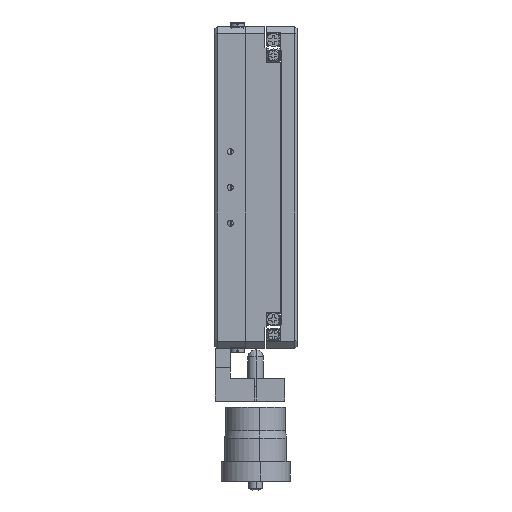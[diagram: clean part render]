
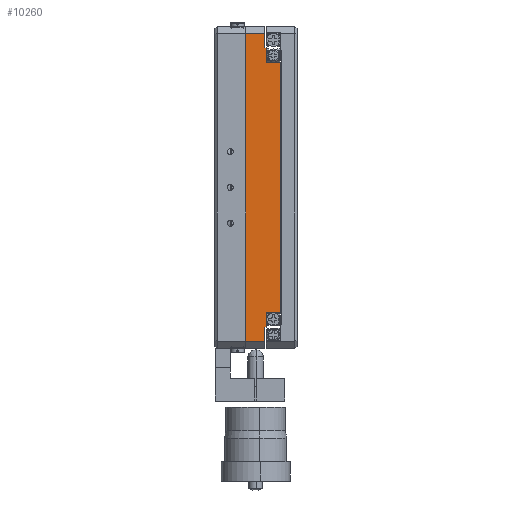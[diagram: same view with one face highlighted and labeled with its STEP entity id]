
A CAD part, left-side view. The second image highlights one B-rep face of the part: STEP entity #10260.
In plain terms, the highlighted planar face has unit normal (-1, 0, 0).
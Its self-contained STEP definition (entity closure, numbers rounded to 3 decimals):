
#102 = VECTOR ( 'NONE', #16173, 1000. ) ;
#400 = VERTEX_POINT ( 'NONE', #2878 ) ;
#915 = EDGE_CURVE ( 'NONE', #15480, #24656, #23182, .T. ) ;
#1061 = CARTESIAN_POINT ( 'NONE',  ( -70.913, -15.478, 82.5 ) ) ;
#1239 = DIRECTION ( 'NONE',  ( 0., -1., 0. ) ) ;
#1457 = EDGE_CURVE ( 'NONE', #24656, #20769, #4999, .T. ) ;
#1490 = CARTESIAN_POINT ( 'NONE',  ( -70.913, -14.978, 199.5 ) ) ;
#2160 = CARTESIAN_POINT ( 'NONE',  ( -70.913, -14.978, 67.5 ) ) ;
#2545 = ORIENTED_EDGE ( 'NONE', *, *, #18322, .T. ) ;
#2592 = LINE ( 'NONE', #3372, #24760 ) ;
#2670 = LINE ( 'NONE', #2160, #102 ) ;
#2757 = ORIENTED_EDGE ( 'NONE', *, *, #915, .F. ) ;
#2802 = EDGE_CURVE ( 'NONE', #16371, #15480, #15123, .T. ) ;
#2878 = CARTESIAN_POINT ( 'NONE',  ( -70.913, -15.478, 76.5 ) ) ;
#3372 = CARTESIAN_POINT ( 'NONE',  ( -70.913, -15.478, 67.5 ) ) ;
#3573 = AXIS2_PLACEMENT_3D ( 'NONE', #4577, #10489, #24323 ) ;
#3952 = ORIENTED_EDGE ( 'NONE', *, *, #6088, .F. ) ;
#4223 = VECTOR ( 'NONE', #22894, 1000. ) ;
#4577 = CARTESIAN_POINT ( 'NONE',  ( -70.913, -21.478, 67.5 ) ) ;
#4999 = LINE ( 'NONE', #11154, #14007 ) ;
#6088 = EDGE_CURVE ( 'NONE', #20769, #19268, #2670, .T. ) ;
#6809 = LINE ( 'NONE', #22990, #11437 ) ;
#7123 = ORIENTED_EDGE ( 'NONE', *, *, #14659, .T. ) ;
#7298 = DIRECTION ( 'NONE',  ( 0., 0., 1. ) ) ;
#7610 = CARTESIAN_POINT ( 'NONE',  ( -70.913, -14.978, 76.5 ) ) ;
#8128 = VECTOR ( 'NONE', #21519, 1000. ) ;
#8447 = VERTEX_POINT ( 'NONE', #20452 ) ;
#8460 = DIRECTION ( 'NONE',  ( 0., 1., 0. ) ) ;
#8571 = VECTOR ( 'NONE', #17205, 1000. ) ;
#8831 = CARTESIAN_POINT ( 'NONE',  ( -70.913, -21.478, 135. ) ) ;
#8998 = EDGE_LOOP ( 'NONE', ( #25912, #2757, #17186, #13148, #12237, #11849, #7123, #14756, #12113, #17268, #2545, #3952 ) ) ;
#9663 = DIRECTION ( 'NONE',  ( 0., -1., 0. ) ) ;
#10260 = ADVANCED_FACE ( 'NONE', ( #11651 ), #18326, .F. ) ;
#10489 = DIRECTION ( 'NONE',  ( 1., 0., 0. ) ) ;
#10669 = CARTESIAN_POINT ( 'NONE',  ( -70.913, -15.478, 193.5 ) ) ;
#10734 = VERTEX_POINT ( 'NONE', #23814 ) ;
#11154 = CARTESIAN_POINT ( 'NONE',  ( -70.913, -21.478, 199.5 ) ) ;
#11437 = VECTOR ( 'NONE', #9663, 1000. ) ;
#11457 = CARTESIAN_POINT ( 'NONE',  ( -70.913, -14.978, 67.5 ) ) ;
#11648 = LINE ( 'NONE', #11457, #8571 ) ;
#11651 = FACE_OUTER_BOUND ( 'NONE', #8998, .T. ) ;
#11849 = ORIENTED_EDGE ( 'NONE', *, *, #25189, .F. ) ;
#11918 = DIRECTION ( 'NONE',  ( 0., -1., 0. ) ) ;
#12113 = ORIENTED_EDGE ( 'NONE', *, *, #24263, .F. ) ;
#12237 = ORIENTED_EDGE ( 'NONE', *, *, #20870, .T. ) ;
#12357 = VERTEX_POINT ( 'NONE', #15466 ) ;
#12708 = CARTESIAN_POINT ( 'NONE',  ( -70.913, -15.478, 193.5 ) ) ;
#12789 = EDGE_CURVE ( 'NONE', #23562, #10734, #2592, .T. ) ;
#13148 = ORIENTED_EDGE ( 'NONE', *, *, #17325, .F. ) ;
#13445 = VECTOR ( 'NONE', #7298, 1000. ) ;
#14007 = VECTOR ( 'NONE', #1239, 1000. ) ;
#14439 = VERTEX_POINT ( 'NONE', #16871 ) ;
#14512 = LINE ( 'NONE', #8831, #4223 ) ;
#14659 = EDGE_CURVE ( 'NONE', #8447, #19467, #20833, .T. ) ;
#14756 = ORIENTED_EDGE ( 'NONE', *, *, #19372, .F. ) ;
#14861 = CARTESIAN_POINT ( 'NONE',  ( -70.913, -6.978, 199.5 ) ) ;
#15123 = LINE ( 'NONE', #16619, #23945 ) ;
#15466 = CARTESIAN_POINT ( 'NONE',  ( -70.913, -14.978, 76.5 ) ) ;
#15480 = VERTEX_POINT ( 'NONE', #16530 ) ;
#15638 = LINE ( 'NONE', #12708, #25067 ) ;
#16173 = DIRECTION ( 'NONE',  ( 0., 0., -1. ) ) ;
#16371 = VERTEX_POINT ( 'NONE', #24400 ) ;
#16530 = CARTESIAN_POINT ( 'NONE',  ( -70.913, -6.978, 70.5 ) ) ;
#16619 = CARTESIAN_POINT ( 'NONE',  ( -70.913, -21.478, 70.5 ) ) ;
#16827 = LINE ( 'NONE', #25869, #8128 ) ;
#16871 = CARTESIAN_POINT ( 'NONE',  ( -70.913, -21.478, 187.5 ) ) ;
#17152 = CARTESIAN_POINT ( 'NONE',  ( -70.913, -21.478, 82.5 ) ) ;
#17186 = ORIENTED_EDGE ( 'NONE', *, *, #2802, .F. ) ;
#17205 = DIRECTION ( 'NONE',  ( 0., 0., -1. ) ) ;
#17268 = ORIENTED_EDGE ( 'NONE', *, *, #12789, .F. ) ;
#17325 = EDGE_CURVE ( 'NONE', #12357, #16371, #11648, .T. ) ;
#18322 = EDGE_CURVE ( 'NONE', #23562, #19268, #15638, .T. ) ;
#18326 = PLANE ( 'NONE',  #3573 ) ;
#19239 = CARTESIAN_POINT ( 'NONE',  ( -70.913, -6.978, 67.5 ) ) ;
#19268 = VERTEX_POINT ( 'NONE', #22358 ) ;
#19372 = EDGE_CURVE ( 'NONE', #14439, #19467, #14512, .T. ) ;
#19467 = VERTEX_POINT ( 'NONE', #17152 ) ;
#20346 = VECTOR ( 'NONE', #11918, 1000. ) ;
#20452 = CARTESIAN_POINT ( 'NONE',  ( -70.913, -15.478, 82.5 ) ) ;
#20769 = VERTEX_POINT ( 'NONE', #1490 ) ;
#20833 = LINE ( 'NONE', #1061, #21131 ) ;
#20841 = DIRECTION ( 'NONE',  ( 0., 1., 0. ) ) ;
#20870 = EDGE_CURVE ( 'NONE', #12357, #400, #23206, .T. ) ;
#21131 = VECTOR ( 'NONE', #23090, 1000. ) ;
#21325 = DIRECTION ( 'NONE',  ( 0., 0., -1. ) ) ;
#21519 = DIRECTION ( 'NONE',  ( 0., 0., -1. ) ) ;
#22358 = CARTESIAN_POINT ( 'NONE',  ( -70.913, -14.978, 193.5 ) ) ;
#22894 = DIRECTION ( 'NONE',  ( 0., 0., -1. ) ) ;
#22990 = CARTESIAN_POINT ( 'NONE',  ( -70.913, -21.478, 187.5 ) ) ;
#23090 = DIRECTION ( 'NONE',  ( 0., -1., 0. ) ) ;
#23182 = LINE ( 'NONE', #19239, #13445 ) ;
#23206 = LINE ( 'NONE', #7610, #20346 ) ;
#23562 = VERTEX_POINT ( 'NONE', #10669 ) ;
#23814 = CARTESIAN_POINT ( 'NONE',  ( -70.913, -15.478, 187.5 ) ) ;
#23945 = VECTOR ( 'NONE', #8460, 1000. ) ;
#24263 = EDGE_CURVE ( 'NONE', #10734, #14439, #6809, .T. ) ;
#24323 = DIRECTION ( 'NONE',  ( 0., 0., 1. ) ) ;
#24400 = CARTESIAN_POINT ( 'NONE',  ( -70.913, -14.978, 70.5 ) ) ;
#24656 = VERTEX_POINT ( 'NONE', #14861 ) ;
#24760 = VECTOR ( 'NONE', #21325, 1000. ) ;
#25067 = VECTOR ( 'NONE', #20841, 1000. ) ;
#25189 = EDGE_CURVE ( 'NONE', #8447, #400, #16827, .T. ) ;
#25869 = CARTESIAN_POINT ( 'NONE',  ( -70.913, -15.478, 67.5 ) ) ;
#25912 = ORIENTED_EDGE ( 'NONE', *, *, #1457, .F. ) ;
